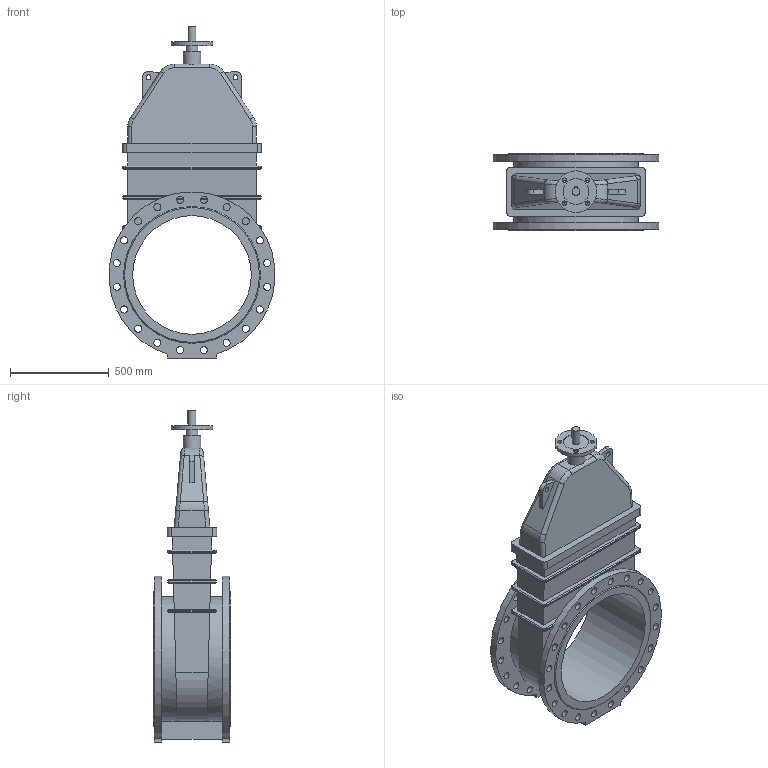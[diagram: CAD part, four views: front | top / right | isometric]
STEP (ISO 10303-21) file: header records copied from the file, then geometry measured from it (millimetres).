
FILE_DESCRIPTION(('STEP AP203'), '1');
FILE_NAME('Çàäâèæêà 47GVA DN600 PN16 áåç èñïîëíèò. ìåõ.', '', ('UNSPECIFIED'), ('UNSPECIFIED'), 'ASCON STEP Converter 1.6', 'ASCON Math Kernel', '');
FILE_SCHEMA(('CONFIG_CONTROL_DESIGN'));
Length unit declared in the file: millimetre
Bounding box: 838.28 x 390 x 1679 mm (x, y, z)
Volume: 121207991.6 mm3; surface area: 4414470.7 mm2
Topology: 1 solids, 1 shells, 258 faces, 644 edges, 408 vertices
Faces by surface type: cylinder 127, plane 97, bspline 32, cone 2
Full cylindrical faces by diameter (mm): 22 x4, 25 x2, 36 x40, 40 x1, 60 x1, 90 x1, 130 x1, 210 x1, 600 x1
Entity records: 12684 total; most frequent: CARTESIAN_POINT 4641, ORIENTED_EDGE 1180, DIRECTION 1158, EDGE_CURVE 590, AXIS2_PLACEMENT_3D 435, EDGE_LOOP 426, VERTEX_POINT 408, FACE_BOUND 319
